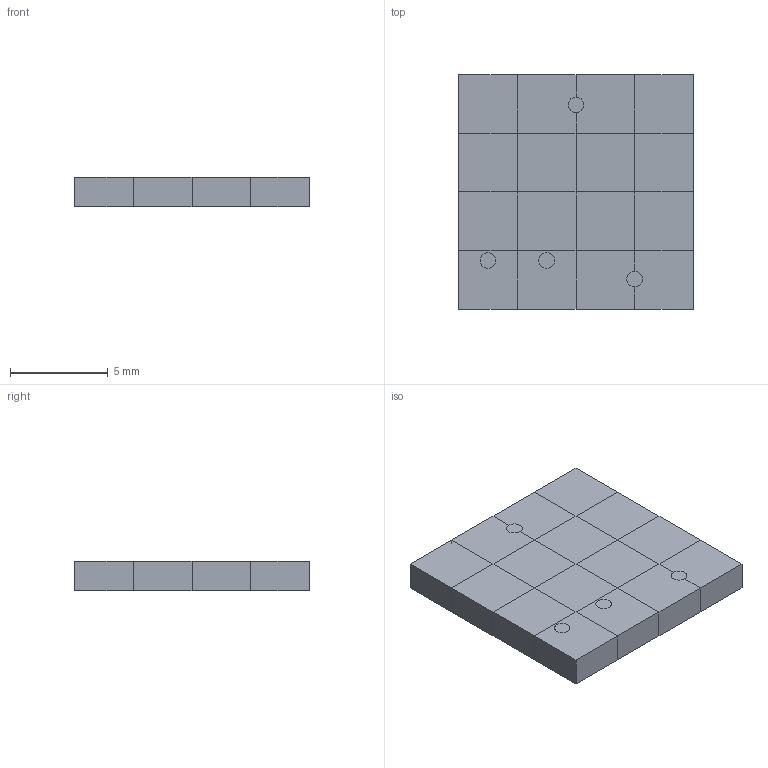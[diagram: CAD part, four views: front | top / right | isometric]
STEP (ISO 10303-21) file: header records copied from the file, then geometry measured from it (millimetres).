
FILE_DESCRIPTION(('Open CASCADE Model'),'2;1');
FILE_NAME('Open CASCADE Shape Model','2026-11-27T10:06:51',('Author'),( 'Open CASCADE'),'Open CASCADE STEP processor 7.9','Open CASCADE 7.9' ,'Unknown');
FILE_SCHEMA(('AUTOMOTIVE_DESIGN { 1 0 10303 214 1 1 1 1 }'));
Length unit declared in the file: millimetre
Products named in the file (3): manifold_N1; fluid; solid
Assembly tree (2 placements, depth 2):
  manifold_N1
    fluid
    solid
Bounding box: 12 x 12 x 1.5 mm (x, y, z)
Volume: 216 mm3; surface area: 1115.1 mm2
Topology: 2 solids, 2 shells, 784 faces, 2384 edges, 1468 vertices
Faces by surface type: plane 776, cylinder 8
Full cylindrical faces by diameter (mm): 0.8 x8
Entity records: 57442 total; most frequent: CARTESIAN_POINT 10939, DIRECTION 8394, LINE 6388, VECTOR 6388, ORIENTED_EDGE 4768, PCURVE 4768, DEFINITIONAL_REPRESENTATION 4768, EDGE_CURVE 2384
